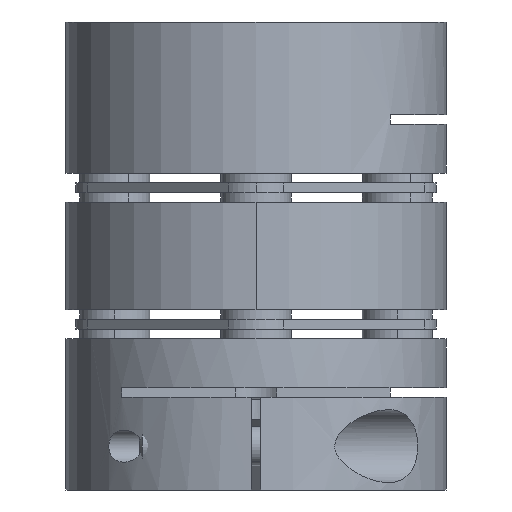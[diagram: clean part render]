
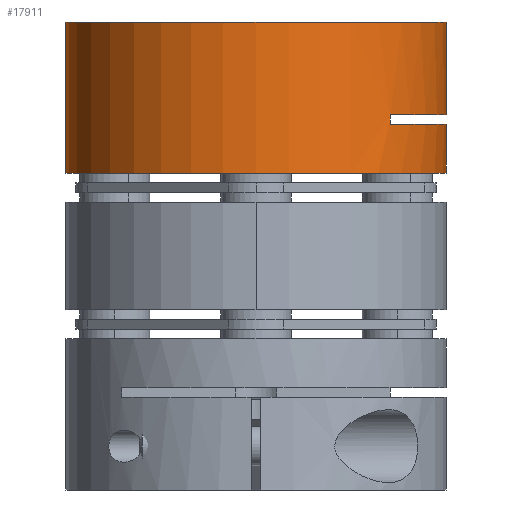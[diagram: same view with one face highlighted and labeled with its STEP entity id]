
A CAD part, front view. The second image highlights one B-rep face of the part: STEP entity #17911.
In plain terms, the highlighted cylindrical face has radius 19.5 mm (diameter 39 mm), a partial arc.
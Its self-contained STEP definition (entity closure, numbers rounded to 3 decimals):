
#62 = CARTESIAN_POINT ( 'NONE',  ( 12.822, 37.663, 108.096 ) ) ;
#98 = VERTEX_POINT ( 'NONE', #16133 ) ;
#257 = CARTESIAN_POINT ( 'NONE',  ( -26.178, 37.663, 102.096 ) ) ;
#343 = DIRECTION ( 'NONE',  ( -1., 0., 0. ) ) ;
#461 = CARTESIAN_POINT ( 'NONE',  ( 12.822, 37.663, 102.096 ) ) ;
#653 = CARTESIAN_POINT ( 'NONE',  ( 12.822, 37.663, 117.596 ) ) ;
#2067 = FACE_OUTER_BOUND ( 'NONE', #7830, .T. ) ;
#2538 = DIRECTION ( 'NONE',  ( 0., 0., -1. ) ) ;
#2675 = DIRECTION ( 'NONE',  ( 1., 0., 0. ) ) ;
#2749 = DIRECTION ( 'NONE',  ( 0., 0., 1. ) ) ;
#3078 = CARTESIAN_POINT ( 'NONE',  ( -6.678, 37.663, 117.596 ) ) ;
#3107 = ORIENTED_EDGE ( 'NONE', *, *, #13169, .F. ) ;
#3277 = AXIS2_PLACEMENT_3D ( 'NONE', #19169, #9837, #343 ) ;
#3514 = DIRECTION ( 'NONE',  ( 0., 0., -1. ) ) ;
#3562 = DIRECTION ( 'NONE',  ( 0., 0., 1. ) ) ;
#3566 = CARTESIAN_POINT ( 'NONE',  ( 7.111, 23.874, 107.096 ) ) ;
#3665 = EDGE_CURVE ( 'NONE', #98, #11230, #15652, .T. ) ;
#4303 = CARTESIAN_POINT ( 'NONE',  ( 12.822, 37.663, 117.596 ) ) ;
#4410 = DIRECTION ( 'NONE',  ( 0., 0., -1. ) ) ;
#5256 = CARTESIAN_POINT ( 'NONE',  ( 12.822, 37.663, 107.096 ) ) ;
#5905 = EDGE_CURVE ( 'NONE', #19471, #16609, #18437, .T. ) ;
#5906 = DIRECTION ( 'NONE',  ( 0., 0., -1. ) ) ;
#5961 = AXIS2_PLACEMENT_3D ( 'NONE', #18212, #8861, #19753 ) ;
#6233 = LINE ( 'NONE', #15258, #18732 ) ;
#6580 = VECTOR ( 'NONE', #3514, 1000. ) ;
#7157 = EDGE_CURVE ( 'NONE', #11230, #19471, #14926, .T. ) ;
#7806 = EDGE_CURVE ( 'NONE', #12875, #16609, #6233, .T. ) ;
#7830 = EDGE_LOOP ( 'NONE', ( #10700, #9505, #14132, #18803, #3107, #12966, #19296, #17323 ) ) ;
#8861 = DIRECTION ( 'NONE',  ( 0., 0., -1. ) ) ;
#8877 = AXIS2_PLACEMENT_3D ( 'NONE', #12060, #2538, #10568 ) ;
#9380 = VERTEX_POINT ( 'NONE', #257 ) ;
#9505 = ORIENTED_EDGE ( 'NONE', *, *, #3665, .F. ) ;
#9837 = DIRECTION ( 'NONE',  ( 0., 0., -1. ) ) ;
#10568 = DIRECTION ( 'NONE',  ( -1., 0., 0. ) ) ;
#10700 = ORIENTED_EDGE ( 'NONE', *, *, #7157, .F. ) ;
#11230 = VERTEX_POINT ( 'NONE', #653 ) ;
#11681 = AXIS2_PLACEMENT_3D ( 'NONE', #3078, #2749, #2675 ) ;
#11877 = EDGE_CURVE ( 'NONE', #13552, #12875, #14497, .T. ) ;
#12060 = CARTESIAN_POINT ( 'NONE',  ( -6.678, 37.663, 117.596 ) ) ;
#12184 = DIRECTION ( 'NONE',  ( 0., 0., 1. ) ) ;
#12875 = VERTEX_POINT ( 'NONE', #3566 ) ;
#12966 = ORIENTED_EDGE ( 'NONE', *, *, #11877, .T. ) ;
#12989 = CARTESIAN_POINT ( 'NONE',  ( -6.678, 37.663, 102.096 ) ) ;
#13169 = EDGE_CURVE ( 'NONE', #13552, #14306, #19062, .T. ) ;
#13462 = CARTESIAN_POINT ( 'NONE',  ( 7.111, 23.874, 108.096 ) ) ;
#13552 = VERTEX_POINT ( 'NONE', #5256 ) ;
#14132 = ORIENTED_EDGE ( 'NONE', *, *, #19267, .T. ) ;
#14306 = VERTEX_POINT ( 'NONE', #461 ) ;
#14420 = VECTOR ( 'NONE', #5906, 1000. ) ;
#14497 = CIRCLE ( 'NONE', #3277, 19.5 ) ;
#14518 = CARTESIAN_POINT ( 'NONE',  ( 12.822, 37.663, 117.596 ) ) ;
#14554 = DIRECTION ( 'NONE',  ( 1., 0., 0. ) ) ;
#14926 = LINE ( 'NONE', #14518, #6580 ) ;
#15258 = CARTESIAN_POINT ( 'NONE',  ( 7.111, 23.874, 117.596 ) ) ;
#15652 = CIRCLE ( 'NONE', #11681, 19.5 ) ;
#16133 = CARTESIAN_POINT ( 'NONE',  ( -26.178, 37.663, 117.596 ) ) ;
#16403 = EDGE_CURVE ( 'NONE', #9380, #14306, #17383, .T. ) ;
#16609 = VERTEX_POINT ( 'NONE', #13462 ) ;
#16828 = CYLINDRICAL_SURFACE ( 'NONE', #8877, 19.5 ) ;
#17323 = ORIENTED_EDGE ( 'NONE', *, *, #5905, .F. ) ;
#17383 = CIRCLE ( 'NONE', #19046, 19.5 ) ;
#17911 = ADVANCED_FACE ( 'NONE', ( #2067 ), #16828, .T. ) ;
#18212 = CARTESIAN_POINT ( 'NONE',  ( -6.678, 37.663, 108.096 ) ) ;
#18437 = CIRCLE ( 'NONE', #5961, 19.5 ) ;
#18732 = VECTOR ( 'NONE', #12184, 1000. ) ;
#18803 = ORIENTED_EDGE ( 'NONE', *, *, #16403, .T. ) ;
#19046 = AXIS2_PLACEMENT_3D ( 'NONE', #12989, #3562, #14554 ) ;
#19062 = LINE ( 'NONE', #4303, #14420 ) ;
#19169 = CARTESIAN_POINT ( 'NONE',  ( -6.678, 37.663, 107.096 ) ) ;
#19267 = EDGE_CURVE ( 'NONE', #98, #9380, #19847, .T. ) ;
#19296 = ORIENTED_EDGE ( 'NONE', *, *, #7806, .T. ) ;
#19374 = VECTOR ( 'NONE', #4410, 1000. ) ;
#19471 = VERTEX_POINT ( 'NONE', #62 ) ;
#19753 = DIRECTION ( 'NONE',  ( -1., 0., 0. ) ) ;
#19847 = LINE ( 'NONE', #20011, #19374 ) ;
#20011 = CARTESIAN_POINT ( 'NONE',  ( -26.178, 37.663, 117.596 ) ) ;
